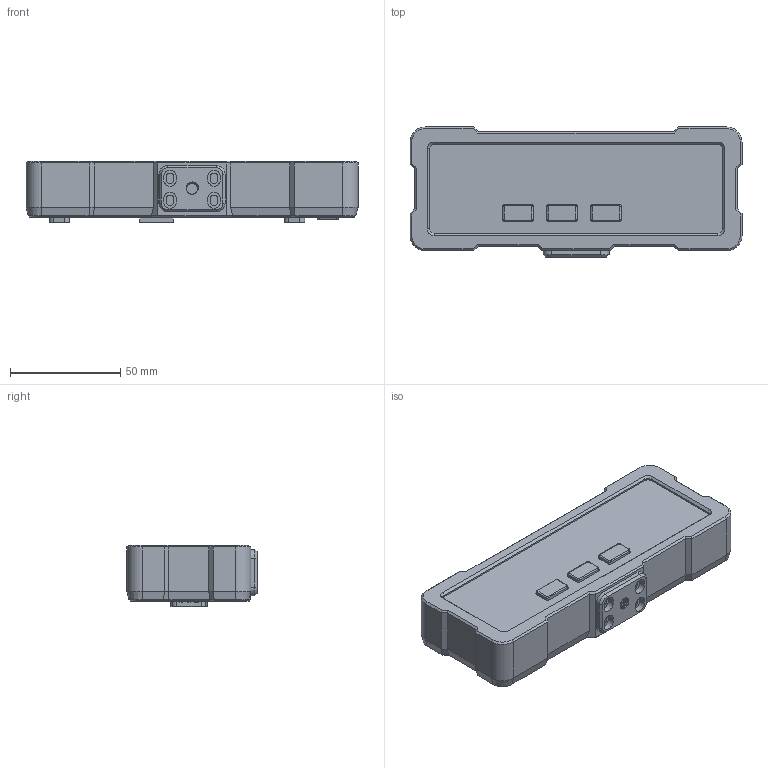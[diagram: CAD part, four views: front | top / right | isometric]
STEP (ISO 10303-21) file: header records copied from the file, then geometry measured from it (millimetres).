
FILE_DESCRIPTION(/* description */ (''),/* implementation_level */ '2;1');
FILE_NAME(/* name */ 'BC03_GUMA_PREDVADECI.step',/* time_stamp */ '2023-11-14T17:02:52+01:00',/* author */ (''),/* organization */ (''),/* preprocessor_version */ 'ST-DEVELOPER v20',/* originating_system */ 'Autodesk Translation Framework v12.14.0.127',/* authorisation */ '');
FILE_SCHEMA (('AUTOMOTIVE_DESIGN { 1 0 10303 214 3 1 1 }'));
Products named in the file (1): BC03_GUMA_PREDVADECI
Bounding box: 150.7 x 59.07 x 27.94 mm (x, y, z)
Volume: 171619.5 mm3; surface area: 52501.2 mm2
Topology: 3 solids, 67 shells, 2657 faces, 6600 edges, 4174 vertices
Faces by surface type: plane 1269, bspline 602, cylinder 537, torus 126, cone 65, sphere 58
Full cylindrical faces by diameter (mm): 0.84 x18, 1.04 x18, 1.14 x18, 1.75 x2, 1.8 x2, 2 x7, 2.15 x4, 2.2 x6, 2.25 x2, 3 x2, 3.1 x4, 4.4 x2, 5.035 x2
Entity records: 103387 total; most frequent: CARTESIAN_POINT 44324, ORIENTED_EDGE 13084, DIRECTION 10574, EDGE_CURVE 6542, VERTEX_POINT 4174, LINE 3704, VECTOR 3704, AXIS2_PLACEMENT_3D 3435
